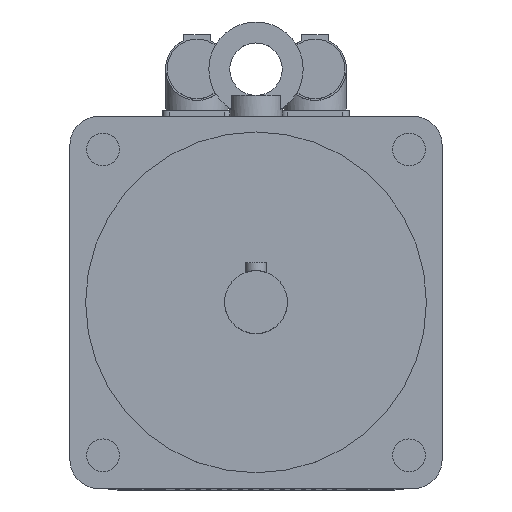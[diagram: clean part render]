
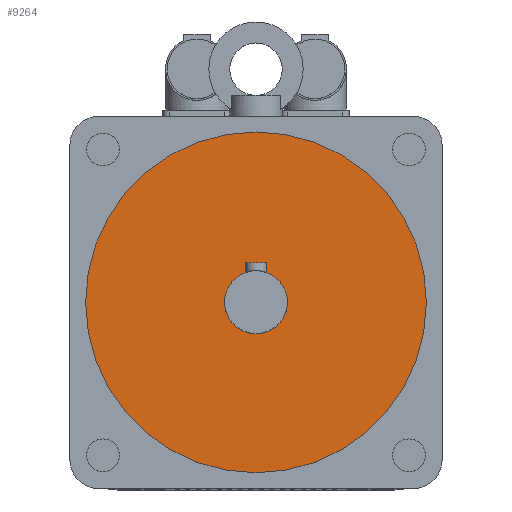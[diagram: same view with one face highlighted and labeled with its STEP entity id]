
A CAD part, top view. The second image highlights one B-rep face of the part: STEP entity #9264.
In plain terms, the highlighted planar face has unit normal (0, 0, 1).
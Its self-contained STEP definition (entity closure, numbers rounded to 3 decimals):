
#107=FACE_BOUND('',#909,.T.);
#283=FACE_OUTER_BOUND('',#908,.T.);
#908=EDGE_LOOP('',(#6623));
#909=EDGE_LOOP('',(#6624));
#1470=CIRCLE('',#9861,12.);
#1471=CIRCLE('',#9863,65.);
#4215=VERTEX_POINT('',#14403);
#4216=VERTEX_POINT('',#14406);
#5156=EDGE_CURVE('',#4215,#4215,#1470,.T.);
#5157=EDGE_CURVE('',#4216,#4216,#1471,.T.);
#6623=ORIENTED_EDGE('',*,*,#5157,.F.);
#6624=ORIENTED_EDGE('',*,*,#5156,.T.);
#8816=PLANE('',#9862);
#9264=ADVANCED_FACE('',(#283,#107),#8816,.T.);
#9861=AXIS2_PLACEMENT_3D('',#14404,#11242,#11243);
#9862=AXIS2_PLACEMENT_3D('',#14405,#11244,#11245);
#9863=AXIS2_PLACEMENT_3D('',#14407,#11246,#11247);
#11242=DIRECTION('center_axis',(0.,0.,-1.));
#11243=DIRECTION('ref_axis',(1.,0.,0.));
#11244=DIRECTION('center_axis',(0.,0.,1.));
#11245=DIRECTION('ref_axis',(1.,0.,0.));
#11246=DIRECTION('center_axis',(0.,0.,-1.));
#11247=DIRECTION('ref_axis',(1.,0.,0.));
#14403=CARTESIAN_POINT('',(0.,12.,292.));
#14404=CARTESIAN_POINT('Origin',(0.,0.,292.));
#14405=CARTESIAN_POINT('Origin',(0.,65.,292.));
#14406=CARTESIAN_POINT('',(0.,65.,292.));
#14407=CARTESIAN_POINT('Origin',(0.,0.,292.));
